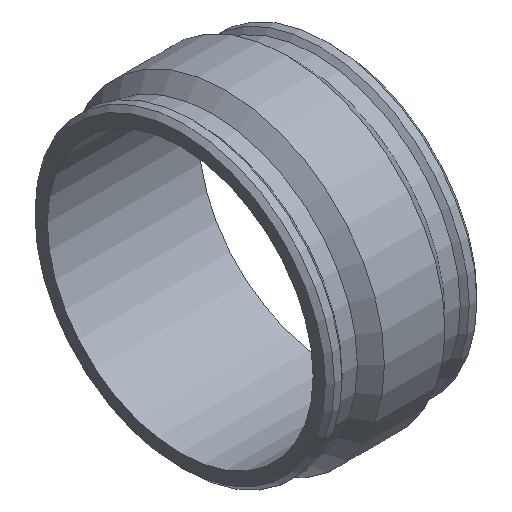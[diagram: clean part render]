
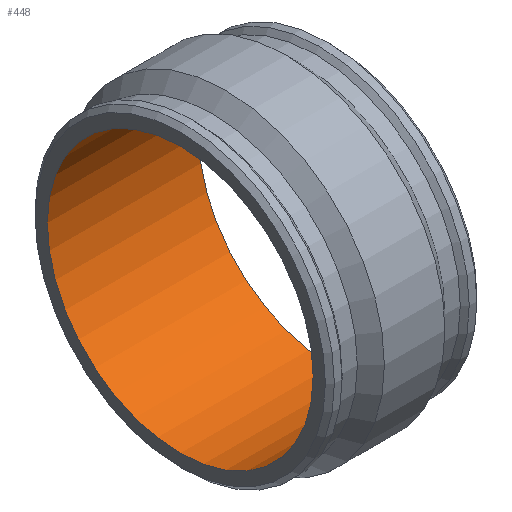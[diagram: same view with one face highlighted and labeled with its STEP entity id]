
A CAD part, isometric view. The second image highlights one B-rep face of the part: STEP entity #448.
In plain terms, the highlighted cylindrical face has radius 500 mm (diameter 1000 mm), a full revolution.
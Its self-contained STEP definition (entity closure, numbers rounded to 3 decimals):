
#48=LINE('',#899,#64);
#64=VECTOR('',#696,500.);
#78=CYLINDRICAL_SURFACE('',#538,500.);
#106=FACE_OUTER_BOUND('',#142,.T.);
#142=EDGE_LOOP('',(#407,#408,#409,#410,#411,#412));
#167=CIRCLE('',#510,500.);
#168=CIRCLE('',#511,500.);
#183=CIRCLE('',#536,500.);
#184=CIRCLE('',#537,500.);
#209=VERTEX_POINT('',#843);
#210=VERTEX_POINT('',#844);
#225=VERTEX_POINT('',#894);
#226=VERTEX_POINT('',#895);
#261=EDGE_CURVE('',#209,#210,#167,.T.);
#262=EDGE_CURVE('',#210,#209,#168,.T.);
#286=EDGE_CURVE('',#225,#226,#183,.T.);
#287=EDGE_CURVE('',#226,#225,#184,.T.);
#288=EDGE_CURVE('',#226,#210,#48,.T.);
#407=ORIENTED_EDGE('',*,*,#286,.T.);
#408=ORIENTED_EDGE('',*,*,#288,.T.);
#409=ORIENTED_EDGE('',*,*,#261,.F.);
#410=ORIENTED_EDGE('',*,*,#262,.F.);
#411=ORIENTED_EDGE('',*,*,#288,.F.);
#412=ORIENTED_EDGE('',*,*,#287,.T.);
#448=ADVANCED_FACE('',(#106),#78,.F.);
#510=AXIS2_PLACEMENT_3D('',#845,#629,#630);
#511=AXIS2_PLACEMENT_3D('',#846,#631,#632);
#536=AXIS2_PLACEMENT_3D('',#896,#690,#691);
#537=AXIS2_PLACEMENT_3D('',#897,#692,#693);
#538=AXIS2_PLACEMENT_3D('',#898,#694,#695);
#629=DIRECTION('center_axis',(1.,0.,0.));
#630=DIRECTION('ref_axis',(0.,0.,-1.));
#631=DIRECTION('center_axis',(1.,0.,0.));
#632=DIRECTION('ref_axis',(0.,0.,-1.));
#690=DIRECTION('center_axis',(1.,0.,0.));
#691=DIRECTION('ref_axis',(0.,0.,-1.));
#692=DIRECTION('center_axis',(1.,0.,0.));
#693=DIRECTION('ref_axis',(0.,0.,-1.));
#694=DIRECTION('center_axis',(1.,0.,0.));
#695=DIRECTION('ref_axis',(0.,1.,0.));
#696=DIRECTION('',(-1.,0.,0.));
#843=CARTESIAN_POINT('',(-285.,500.,0.));
#844=CARTESIAN_POINT('',(-285.,-500.,0.));
#845=CARTESIAN_POINT('Origin',(-285.,0.,0.));
#846=CARTESIAN_POINT('Origin',(-285.,0.,0.));
#894=CARTESIAN_POINT('',(285.,500.,0.));
#895=CARTESIAN_POINT('',(285.,-500.,0.));
#896=CARTESIAN_POINT('Origin',(285.,0.,0.));
#897=CARTESIAN_POINT('Origin',(285.,0.,0.));
#898=CARTESIAN_POINT('Origin',(-142.5,0.,0.));
#899=CARTESIAN_POINT('',(-142.5,-500.,0.));
